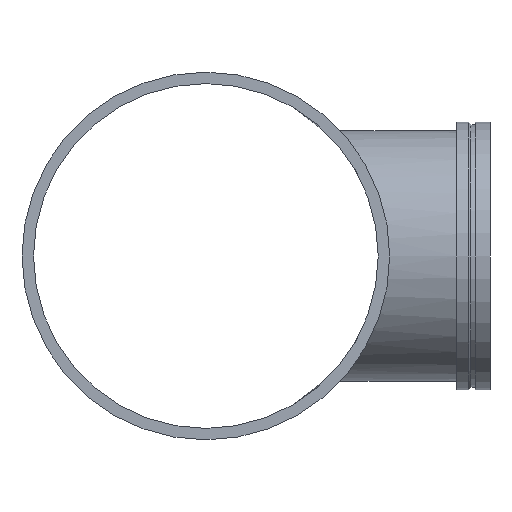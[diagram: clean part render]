
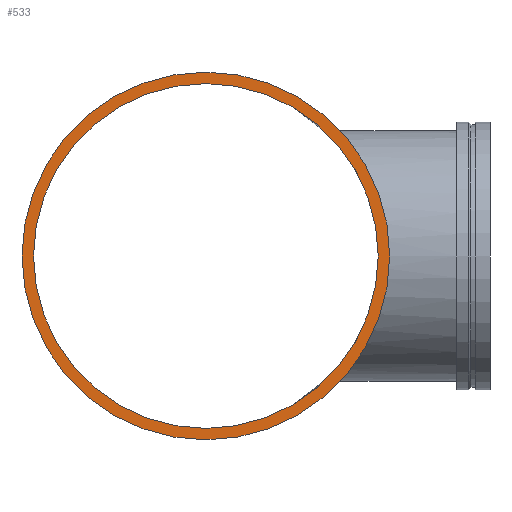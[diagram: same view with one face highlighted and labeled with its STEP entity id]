
A CAD part, left-side view. The second image highlights one B-rep face of the part: STEP entity #533.
In plain terms, the highlighted planar face has unit normal (-1, 0, 0).
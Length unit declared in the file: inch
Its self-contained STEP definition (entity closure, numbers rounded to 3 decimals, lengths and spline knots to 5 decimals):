
#58=FACE_BOUND('',#128,.T.);
#67=PLANE('',#626);
#92=FACE_OUTER_BOUND('',#127,.T.);
#127=EDGE_LOOP('',(#465,#466));
#128=EDGE_LOOP('',(#467,#468));
#151=CIRCLE('',#587,22.);
#152=CIRCLE('',#588,22.);
#175=CIRCLE('',#624,20.625);
#176=CIRCLE('',#625,20.625);
#239=VERTEX_POINT('',#1153);
#240=VERTEX_POINT('',#1155);
#263=VERTEX_POINT('',#1222);
#264=VERTEX_POINT('',#1224);
#299=EDGE_CURVE('',#239,#240,#151,.T.);
#300=EDGE_CURVE('',#240,#239,#152,.T.);
#331=EDGE_CURVE('',#264,#263,#175,.T.);
#332=EDGE_CURVE('',#263,#264,#176,.T.);
#465=ORIENTED_EDGE('',*,*,#300,.F.);
#466=ORIENTED_EDGE('',*,*,#299,.F.);
#467=ORIENTED_EDGE('',*,*,#331,.T.);
#468=ORIENTED_EDGE('',*,*,#332,.T.);
#533=ADVANCED_FACE('',(#92,#58),#67,.T.);
#587=AXIS2_PLACEMENT_3D('',#1156,#716,#717);
#588=AXIS2_PLACEMENT_3D('',#1157,#718,#719);
#624=AXIS2_PLACEMENT_3D('',#1225,#798,#799);
#625=AXIS2_PLACEMENT_3D('',#1226,#800,#801);
#626=AXIS2_PLACEMENT_3D('',#1227,#802,#803);
#716=DIRECTION('center_axis',(1.,0.,0.));
#717=DIRECTION('ref_axis',(0.,0.,1.));
#718=DIRECTION('center_axis',(1.,0.,0.));
#719=DIRECTION('ref_axis',(0.,0.,1.));
#798=DIRECTION('center_axis',(1.,0.,0.));
#799=DIRECTION('ref_axis',(0.,0.,1.));
#800=DIRECTION('center_axis',(1.,0.,0.));
#801=DIRECTION('ref_axis',(0.,0.,1.));
#802=DIRECTION('center_axis',(-1.,0.,0.));
#803=DIRECTION('ref_axis',(0.,0.,-1.));
#1153=CARTESIAN_POINT('',(-36.,22.,0.));
#1155=CARTESIAN_POINT('',(-36.,-22.,0.));
#1156=CARTESIAN_POINT('Origin',(-36.,0.,0.));
#1157=CARTESIAN_POINT('Origin',(-36.,0.,0.));
#1222=CARTESIAN_POINT('',(-36.,20.625,0.));
#1224=CARTESIAN_POINT('',(-36.,-20.625,0.));
#1225=CARTESIAN_POINT('Origin',(-36.,0.,0.));
#1226=CARTESIAN_POINT('Origin',(-36.,0.,0.));
#1227=CARTESIAN_POINT('Origin',(-36.,-22.,0.));
